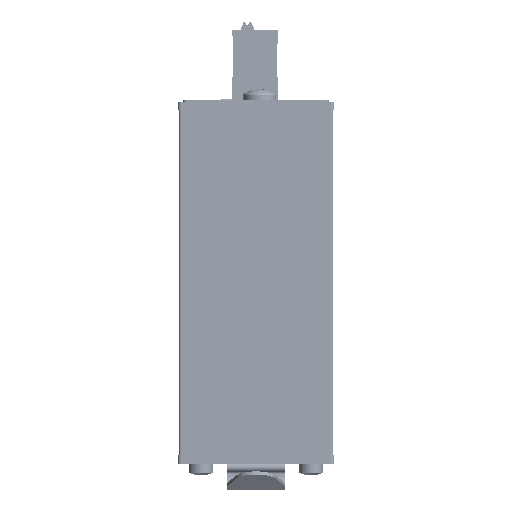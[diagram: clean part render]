
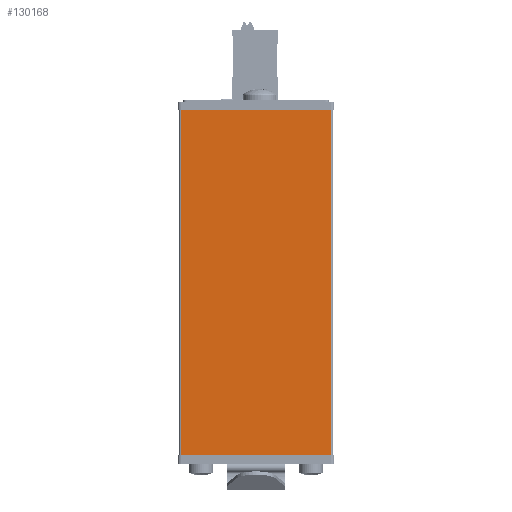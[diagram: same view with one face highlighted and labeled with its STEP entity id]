
A CAD part, front view. The second image highlights one B-rep face of the part: STEP entity #130168.
In plain terms, the highlighted planar face has unit normal (0, -1, 0).
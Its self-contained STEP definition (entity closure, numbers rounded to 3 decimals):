
#14608 = LINE ( 'NONE', #247744, #155060 ) ;
#14616 = AXIS2_PLACEMENT_3D ( 'NONE', #51795, #29639, #169564 ) ;
#29639 = DIRECTION ( 'NONE',  ( 0., -1., 0. ) ) ;
#35735 = EDGE_CURVE ( 'NONE', #158912, #182447, #14608, .T. ) ;
#39486 = LINE ( 'NONE', #76159, #127864 ) ;
#50733 = CARTESIAN_POINT ( 'NONE',  ( 36.5, 0., -0.1 ) ) ;
#51795 = CARTESIAN_POINT ( 'NONE',  ( 0.5, 0., -83.1 ) ) ;
#52219 = CARTESIAN_POINT ( 'NONE',  ( 36.5, 0., -83.1 ) ) ;
#54040 = LINE ( 'NONE', #251632, #94716 ) ;
#69851 = DIRECTION ( 'NONE',  ( 1., 0., 0. ) ) ;
#76159 = CARTESIAN_POINT ( 'NONE',  ( 0.5, 0., -0.1 ) ) ;
#93747 = ORIENTED_EDGE ( 'NONE', *, *, #120501, .F. ) ;
#94716 = VECTOR ( 'NONE', #152196, 1000. ) ;
#109006 = DIRECTION ( 'NONE',  ( 0., 0., 1. ) ) ;
#119205 = DIRECTION ( 'NONE',  ( 1., 0., 0. ) ) ;
#120501 = EDGE_CURVE ( 'NONE', #158912, #158520, #54040, .T. ) ;
#127334 = LINE ( 'NONE', #207120, #180439 ) ;
#127864 = VECTOR ( 'NONE', #119205, 1000. ) ;
#130168 = ADVANCED_FACE ( 'NONE', ( #153846 ), #149934, .T. ) ;
#149934 = PLANE ( 'NONE',  #14616 ) ;
#152196 = DIRECTION ( 'NONE',  ( 0., 0., 1. ) ) ;
#153831 = ORIENTED_EDGE ( 'NONE', *, *, #163255, .T. ) ;
#153846 = FACE_OUTER_BOUND ( 'NONE', #243186, .T. ) ;
#155060 = VECTOR ( 'NONE', #69851, 1000. ) ;
#158520 = VERTEX_POINT ( 'NONE', #225807 ) ;
#158912 = VERTEX_POINT ( 'NONE', #174416 ) ;
#162613 = VERTEX_POINT ( 'NONE', #50733 ) ;
#163255 = EDGE_CURVE ( 'NONE', #182447, #162613, #127334, .T. ) ;
#169564 = DIRECTION ( 'NONE',  ( 1., 0., 0. ) ) ;
#174416 = CARTESIAN_POINT ( 'NONE',  ( 0.5, 0., -83.1 ) ) ;
#180439 = VECTOR ( 'NONE', #109006, 1000. ) ;
#182447 = VERTEX_POINT ( 'NONE', #52219 ) ;
#184021 = ORIENTED_EDGE ( 'NONE', *, *, #35735, .T. ) ;
#192832 = EDGE_CURVE ( 'NONE', #158520, #162613, #39486, .T. ) ;
#204360 = ORIENTED_EDGE ( 'NONE', *, *, #192832, .F. ) ;
#207120 = CARTESIAN_POINT ( 'NONE',  ( 36.5, 0., -83.1 ) ) ;
#225807 = CARTESIAN_POINT ( 'NONE',  ( 0.5, 0., -0.1 ) ) ;
#243186 = EDGE_LOOP ( 'NONE', ( #204360, #93747, #184021, #153831 ) ) ;
#247744 = CARTESIAN_POINT ( 'NONE',  ( 0.5, 0., -83.1 ) ) ;
#251632 = CARTESIAN_POINT ( 'NONE',  ( 0.5, 0., -83.1 ) ) ;
